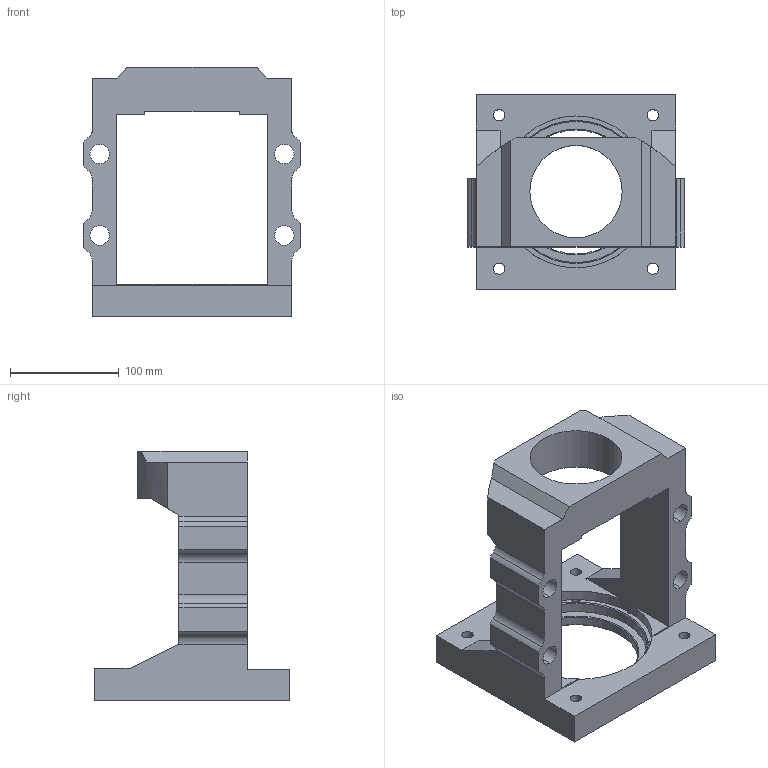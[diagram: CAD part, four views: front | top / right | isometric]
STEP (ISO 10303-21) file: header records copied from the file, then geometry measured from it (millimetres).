
FILE_DESCRIPTION (( 'STEP AP203' ), '1' );
FILE_NAME ('MBB30-H.STEP', '2021-10-01T06:00:25', ( '' ), ( '' ), 'SwSTEP 2.0', 'SolidWorks 2018', '' );
FILE_SCHEMA (( 'CONFIG_CONTROL_DESIGN' ));
Length unit declared in the file: millimetre
Products named in the file (1): MBB30-H
Bounding box: 200 x 180 x 230 mm (x, y, z)
Surface area: 220281.5 mm2 (no closed solid volume)
Topology: 0 solids, 7 shells, 245 faces, 708 edges, 468 vertices
Faces by surface type: cylinder 139, plane 68, cone 34, bspline 2, torus 2
Entity records: 18043 total; most frequent: CARTESIAN_POINT 11685, DIRECTION 1306, ORIENTED_EDGE 1215, EDGE_CURVE 704, AXIS2_PLACEMENT_3D 484, VERTEX_POINT 468, LINE 338, VECTOR 338
